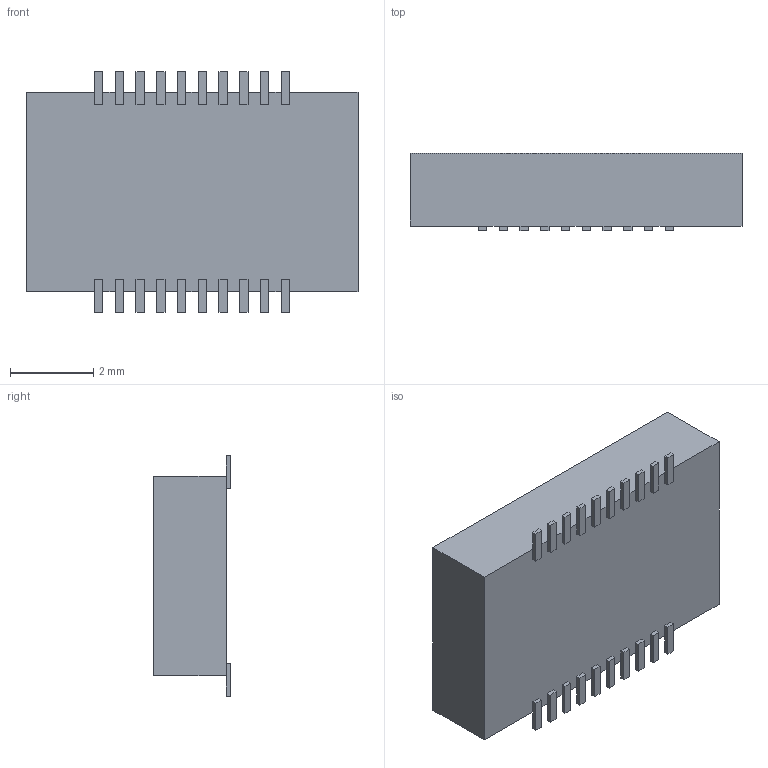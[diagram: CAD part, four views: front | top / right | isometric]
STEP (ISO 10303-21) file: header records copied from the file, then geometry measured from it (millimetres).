
FILE_DESCRIPTION((''),'2;1');
FILE_NAME('BTB-18PIN-2H-05P-FEMALE_PRT','2008-06-30T',('GRA'),(''),'PRO/ENGINEER BY PARAMETRIC TECHNOLOGY CORPORATION, 2006170','PRO/ENGINEER BY PARAMETRIC TECHNOLOGY CORPORATION, 2006170','');
FILE_SCHEMA(('CONFIG_CONTROL_DESIGN'));
Length unit declared in the file: millimetre
Products named in the file (1): BTB-18PIN-2H-05P-FEMALE_PRT
Bounding box: 8 x 1.85 x 5.8 mm (x, y, z)
Volume: 67.5 mm3; surface area: 129.6 mm2
Topology: 1 solids, 1 shells, 126 faces, 332 edges, 208 vertices
Faces by surface type: plane 126
Entity records: 3794 total; most frequent: CARTESIAN_POINT 666, ORIENTED_EDGE 664, DIRECTION 584, VECTOR 332, LINE 332, EDGE_CURVE 332, VERTEX_POINT 208, AXIS2_PLACEMENT_3D 126
